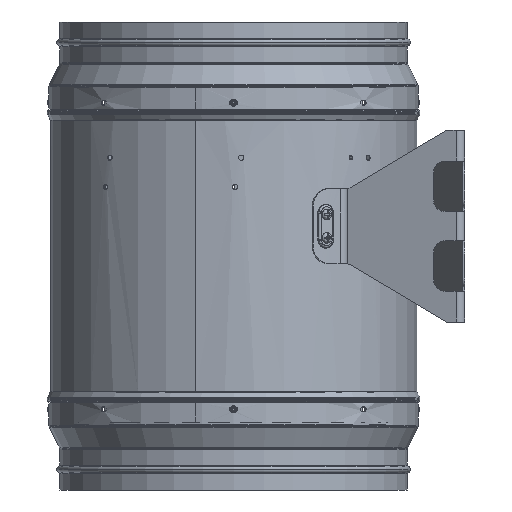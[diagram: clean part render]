
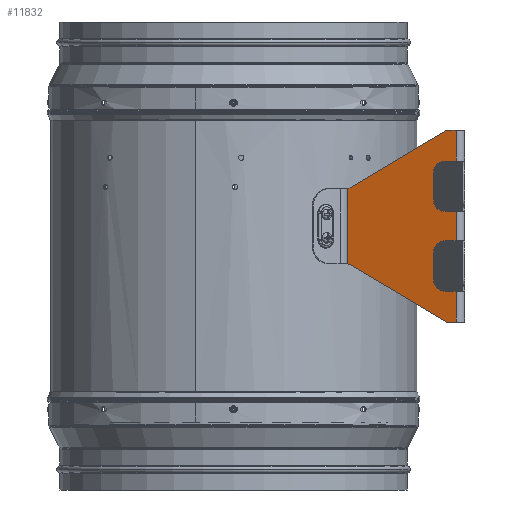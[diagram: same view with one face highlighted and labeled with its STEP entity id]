
A CAD part, front view. The second image highlights one B-rep face of the part: STEP entity #11832.
In plain terms, the highlighted planar face has unit normal (-0.326, -0.946, 0).
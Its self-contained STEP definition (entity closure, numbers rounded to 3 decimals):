
#7113=DIRECTION('',(0.,0.,1.));
#7114=VECTOR('',#7113,64.181);
#7115=CARTESIAN_POINT('',(697.009,-127.356,
-731.59));
#7116=LINE('',#7115,#7114);
#7121=CARTESIAN_POINT('',(700.794,-128.659,
-732.915));
#7122=CARTESIAN_POINT('',(699.615,-128.253,
-732.21));
#7123=CARTESIAN_POINT('',(698.352,-127.819,
-731.772));
#7124=CARTESIAN_POINT('',(697.009,-127.356,
-731.59));
#7135=DIRECTION('',(0.823,-0.283,-0.492));
#7136=VECTOR('',#7135,98.809);
#7137=CARTESIAN_POINT('',(700.794,-128.659,
-732.915));
#7138=LINE('',#7137,#7136);
#7148=CARTESIAN_POINT('',(697.009,-127.356,
-667.41));
#7149=CARTESIAN_POINT('',(698.352,-127.819,
-667.228));
#7150=CARTESIAN_POINT('',(699.615,-128.253,
-666.79));
#7151=CARTESIAN_POINT('',(700.794,-128.659,
-666.085));
#7203=DIRECTION('',(-0.946,0.326,0.));
#7204=VECTOR('',#7203,8.508);
#7205=CARTESIAN_POINT('',(790.189,-159.441,-781.5));
#7206=LINE('',#7205,#7204);
#7234=DIRECTION('',(0.946,-0.326,0.));
#7235=VECTOR('',#7234,8.508);
#7236=CARTESIAN_POINT('',(782.145,-156.671,-617.5));
#7237=LINE('',#7236,#7235);
#7465=DIRECTION('',(-0.946,0.326,0.));
#7466=VECTOR('',#7465,9.909);
#7467=CARTESIAN_POINT('',(790.189,-159.441,-643.9));
#7468=LINE('',#7467,#7466);
#7487=DIRECTION('',(0.,0.,-1.));
#7488=VECTOR('',#7487,26.4);
#7489=CARTESIAN_POINT('',(790.189,-159.441,-617.5));
#7490=LINE('',#7489,#7488);
#7573=DIRECTION('',(0.946,-0.326,0.));
#7574=VECTOR('',#7573,9.909);
#7575=CARTESIAN_POINT('',(780.82,-156.215,-687.));
#7576=LINE('',#7575,#7574);
#7585=DIRECTION('',(-0.946,0.326,0.));
#7586=VECTOR('',#7585,9.909);
#7587=CARTESIAN_POINT('',(790.189,-159.441,-712.));
#7588=LINE('',#7587,#7586);
#7607=DIRECTION('',(0.,0.,-1.));
#7608=VECTOR('',#7607,25.);
#7609=CARTESIAN_POINT('',(790.189,-159.441,-687.));
#7610=LINE('',#7609,#7608);
#7689=DIRECTION('',(0.946,-0.326,0.));
#7690=VECTOR('',#7689,9.909);
#7691=CARTESIAN_POINT('',(780.82,-156.215,-755.1));
#7692=LINE('',#7691,#7690);
#7701=DIRECTION('',(0.,0.,-1.));
#7702=VECTOR('',#7701,26.4);
#7703=CARTESIAN_POINT('',(790.189,-159.441,-755.1));
#7704=LINE('',#7703,#7702);
#7709=CARTESIAN_POINT('',(770.82,-152.771,-745.1));
#7710=CARTESIAN_POINT('',(770.82,-152.771,
-746.815));
#7711=CARTESIAN_POINT('',(771.575,-153.031,
-749.446));
#7712=CARTESIAN_POINT('',(773.664,-153.751,
-752.38));
#7713=CARTESIAN_POINT('',(776.612,-154.766,
-754.406));
#7714=CARTESIAN_POINT('',(779.199,-155.656,-755.1));
#7715=CARTESIAN_POINT('',(780.82,-156.215,-755.1));
#7733=DIRECTION('',(0.,0.,-1.));
#7734=VECTOR('',#7733,23.1);
#7735=CARTESIAN_POINT('',(770.82,-152.771,-722.));
#7736=LINE('',#7735,#7734);
#7737=CARTESIAN_POINT('',(780.82,-156.215,-712.));
#7738=CARTESIAN_POINT('',(779.199,-155.656,-712.));
#7739=CARTESIAN_POINT('',(776.612,-154.766,
-712.694));
#7740=CARTESIAN_POINT('',(773.664,-153.751,
-714.72));
#7741=CARTESIAN_POINT('',(771.575,-153.031,
-717.654));
#7742=CARTESIAN_POINT('',(770.82,-152.771,
-720.285));
#7743=CARTESIAN_POINT('',(770.82,-152.771,-722.));
#7761=CARTESIAN_POINT('',(770.82,-152.771,-677.));
#7762=CARTESIAN_POINT('',(770.82,-152.771,
-678.715));
#7763=CARTESIAN_POINT('',(771.575,-153.031,
-681.346));
#7764=CARTESIAN_POINT('',(773.664,-153.751,
-684.28));
#7765=CARTESIAN_POINT('',(776.612,-154.766,
-686.306));
#7766=CARTESIAN_POINT('',(779.199,-155.656,-687.));
#7767=CARTESIAN_POINT('',(780.82,-156.215,-687.));
#7785=DIRECTION('',(0.,0.,-1.));
#7786=VECTOR('',#7785,23.1);
#7787=CARTESIAN_POINT('',(770.82,-152.771,-653.9));
#7788=LINE('',#7787,#7786);
#7789=CARTESIAN_POINT('',(780.82,-156.215,-643.9));
#7790=CARTESIAN_POINT('',(779.199,-155.656,-643.9));
#7791=CARTESIAN_POINT('',(776.612,-154.766,
-644.594));
#7792=CARTESIAN_POINT('',(773.664,-153.751,
-646.62));
#7793=CARTESIAN_POINT('',(771.575,-153.031,
-649.554));
#7794=CARTESIAN_POINT('',(770.82,-152.771,
-652.185));
#7795=CARTESIAN_POINT('',(770.82,-152.771,-653.9));
#9840=DIRECTION('',(0.823,-0.283,0.492));
#9841=VECTOR('',#9840,98.809);
#9842=CARTESIAN_POINT('',(700.794,-128.659,
-666.085));
#9843=LINE('',#9842,#9841);
#10485=CARTESIAN_POINT('',(790.189,-159.441,-643.9));
#10486=VERTEX_POINT('',#10485);
#10487=CARTESIAN_POINT('',(790.189,-159.441,-617.5));
#10488=VERTEX_POINT('',#10487);
#10489=CARTESIAN_POINT('',(790.189,-159.441,-712.));
#10490=VERTEX_POINT('',#10489);
#10491=CARTESIAN_POINT('',(790.189,-159.441,-687.));
#10492=VERTEX_POINT('',#10491);
#10493=CARTESIAN_POINT('',(790.189,-159.441,-781.5));
#10494=VERTEX_POINT('',#10493);
#10495=CARTESIAN_POINT('',(790.189,-159.441,-755.1));
#10496=VERTEX_POINT('',#10495);
#10497=CARTESIAN_POINT('',(700.794,-128.659,
-732.915));
#10498=CARTESIAN_POINT('',(782.145,-156.671,-781.5));
#10499=VERTEX_POINT('',#10497);
#10500=VERTEX_POINT('',#10498);
#10511=CARTESIAN_POINT('',(780.82,-156.215,-755.1));
#10512=VERTEX_POINT('',#10511);
#10513=VERTEX_POINT('',#7709);
#10517=CARTESIAN_POINT('',(770.82,-152.771,-722.));
#10518=VERTEX_POINT('',#10517);
#10519=VERTEX_POINT('',#7737);
#10527=CARTESIAN_POINT('',(780.82,-156.215,-687.));
#10528=VERTEX_POINT('',#10527);
#10529=VERTEX_POINT('',#7761);
#10531=CARTESIAN_POINT('',(770.82,-152.771,-653.9));
#10532=VERTEX_POINT('',#10531);
#10535=VERTEX_POINT('',#7789);
#10543=CARTESIAN_POINT('',(782.145,-156.671,-617.5));
#10544=VERTEX_POINT('',#10543);
#10547=CARTESIAN_POINT('',(700.794,-128.659,
-666.085));
#10548=VERTEX_POINT('',#10547);
#10549=VERTEX_POINT('',#7148);
#10550=CARTESIAN_POINT('',(697.009,-127.356,
-731.59));
#10551=VERTEX_POINT('',#10550);
#11787=CARTESIAN_POINT('',(696.774,-127.275,-781.4));
#11788=DIRECTION('',(-0.326,-0.946,0.));
#11789=DIRECTION('',(-0.946,0.326,0.));
#11790=AXIS2_PLACEMENT_3D('',#11787,#11788,#11789);
#11791=PLANE('',#11790);
#11793=ORIENTED_EDGE('',*,*,#11792,.T.);
#11795=ORIENTED_EDGE('',*,*,#11794,.T.);
#11797=ORIENTED_EDGE('',*,*,#11796,.T.);
#11799=ORIENTED_EDGE('',*,*,#11798,.T.);
#11801=ORIENTED_EDGE('',*,*,#11800,.T.);
#11803=ORIENTED_EDGE('',*,*,#11802,.T.);
#11805=ORIENTED_EDGE('',*,*,#11804,.T.);
#11807=ORIENTED_EDGE('',*,*,#11806,.T.);
#11809=ORIENTED_EDGE('',*,*,#11808,.T.);
#11811=ORIENTED_EDGE('',*,*,#11810,.T.);
#11813=ORIENTED_EDGE('',*,*,#11812,.T.);
#11815=ORIENTED_EDGE('',*,*,#11814,.T.);
#11817=ORIENTED_EDGE('',*,*,#11816,.T.);
#11819=ORIENTED_EDGE('',*,*,#11818,.T.);
#11821=ORIENTED_EDGE('',*,*,#11820,.T.);
#11823=ORIENTED_EDGE('',*,*,#11822,.T.);
#11825=ORIENTED_EDGE('',*,*,#11824,.T.);
#11827=ORIENTED_EDGE('',*,*,#11826,.F.);
#11828=ORIENTED_EDGE('',*,*,#11776,.T.);
#11829=ORIENTED_EDGE('',*,*,#11764,.T.);
#11830=EDGE_LOOP('',(#11793,#11795,#11797,#11799,#11801,#11803,#11805,#11807,
#11809,#11811,#11813,#11815,#11817,#11819,#11821,#11823,#11825,#11827,#11828,
#11829));
#11831=FACE_OUTER_BOUND('',#11830,.F.);
#11832=ADVANCED_FACE('',(#11831),#11791,.T.);
#7125=B_SPLINE_CURVE_WITH_KNOTS('',3,(#7121,#7122,#7123,#7124),.UNSPECIFIED.,
.F.,.F.,(4,4),(0.,1.),.UNSPECIFIED.);
#7152=B_SPLINE_CURVE_WITH_KNOTS('',3,(#7148,#7149,#7150,#7151),.UNSPECIFIED.,
.F.,.F.,(4,4),(0.,1.),.UNSPECIFIED.);
#7716=B_SPLINE_CURVE_WITH_KNOTS('',3,(#7709,#7710,#7711,#7712,#7713,#7714,
#7715),.UNSPECIFIED.,.F.,.F.,(4,1,1,1,4),(0.,0.25,0.5,0.75,1.),
.UNSPECIFIED.);
#7744=B_SPLINE_CURVE_WITH_KNOTS('',3,(#7737,#7738,#7739,#7740,#7741,#7742,
#7743),.UNSPECIFIED.,.F.,.F.,(4,1,1,1,4),(0.,0.25,0.5,0.75,1.),
.UNSPECIFIED.);
#7768=B_SPLINE_CURVE_WITH_KNOTS('',3,(#7761,#7762,#7763,#7764,#7765,#7766,
#7767),.UNSPECIFIED.,.F.,.F.,(4,1,1,1,4),(0.,0.25,0.5,0.75,1.),
.UNSPECIFIED.);
#7796=B_SPLINE_CURVE_WITH_KNOTS('',3,(#7789,#7790,#7791,#7792,#7793,#7794,
#7795),.UNSPECIFIED.,.F.,.F.,(4,1,1,1,4),(0.,0.25,0.5,0.75,1.),
.UNSPECIFIED.);
#11764=EDGE_CURVE('',#10551,#10549,#7116,.T.);
#11776=EDGE_CURVE('',#10499,#10551,#7125,.T.);
#11792=EDGE_CURVE('',#10549,#10548,#7152,.T.);
#11794=EDGE_CURVE('',#10548,#10544,#9843,.T.);
#11796=EDGE_CURVE('',#10544,#10488,#7237,.T.);
#11798=EDGE_CURVE('',#10488,#10486,#7490,.T.);
#11800=EDGE_CURVE('',#10486,#10535,#7468,.T.);
#11802=EDGE_CURVE('',#10535,#10532,#7796,.T.);
#11804=EDGE_CURVE('',#10532,#10529,#7788,.T.);
#11806=EDGE_CURVE('',#10529,#10528,#7768,.T.);
#11808=EDGE_CURVE('',#10528,#10492,#7576,.T.);
#11810=EDGE_CURVE('',#10492,#10490,#7610,.T.);
#11812=EDGE_CURVE('',#10490,#10519,#7588,.T.);
#11814=EDGE_CURVE('',#10519,#10518,#7744,.T.);
#11816=EDGE_CURVE('',#10518,#10513,#7736,.T.);
#11818=EDGE_CURVE('',#10513,#10512,#7716,.T.);
#11820=EDGE_CURVE('',#10512,#10496,#7692,.T.);
#11822=EDGE_CURVE('',#10496,#10494,#7704,.T.);
#11824=EDGE_CURVE('',#10494,#10500,#7206,.T.);
#11826=EDGE_CURVE('',#10499,#10500,#7138,.T.);
